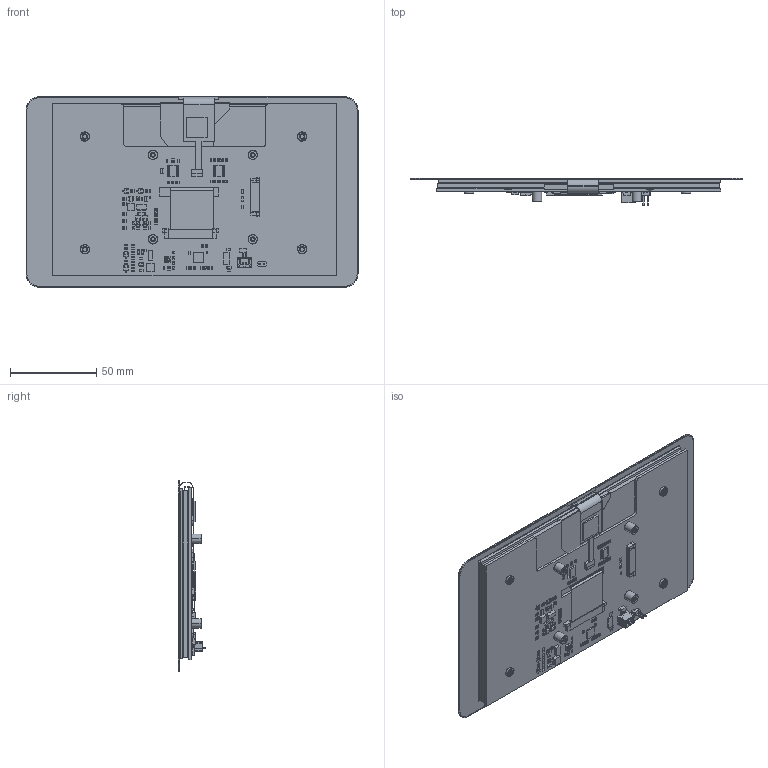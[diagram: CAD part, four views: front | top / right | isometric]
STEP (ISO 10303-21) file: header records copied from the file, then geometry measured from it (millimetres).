
FILE_DESCRIPTION((''),'2;1');
FILE_NAME('7INCH-DSI-LCD_B_ASM','2025-06-24T17:47:50',('xiaojisheng'),(''),'CREO PARAMETRIC BY PTC INC, 2021063','CREO PARAMETRIC BY PTC INC, 2021063','');
FILE_SCHEMA(('CONFIG_CONTROL_DESIGN','SHAPE_APPEARANCE_LAYERS_GROUPS'));
Length unit declared in the file: millimetre
Products named in the file (234): 7INCH-800X480-TP_3; 7INCH-800X480-LCD_2; 7INCH-800X480-LCD_TP_ASM_1_ASM; BOARD_1; EXTRUDED-4984_1; 910776464_ASM_1_ASM; EXTRUDED-5356_1; 910776336_ASM_1_ASM; R62_ASM_1_ASM; R61_ASM_1_ASM; EXTRUDED-5810_1; 910776208_ASM_1_ASM; EXTRUDED-6182_1; 910775952_ASM_1_ASM; R60_ASM_1_ASM; C41_ASM_1_ASM; C40_ASM_1_ASM; R44_ASM_1_ASM; C39_ASM_1_ASM; EXTRUDED-6766_1; 928324896_ASM_1_ASM; TVS2_ASM_1_ASM; TVS1_ASM_1_ASM; R59_ASM_1_ASM; EXTRUDED-7247_1; 910776976_ASM_1_ASM; CYLINDER_1; 836467480_ASM_1_ASM; EXTRUDED-7765_1; 781375376_ASM_1_ASM; EXTRUDED-8449_1; 781375504_ASM_1_ASM; R58_ASM_1_ASM; R57_ASM_1_ASM; R56_ASM_1_ASM; R55_ASM_1_ASM; R54_ASM_1_ASM; R53_ASM_1_ASM; EXTRUDED-9386_1; 928325408_ASM_1_ASM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
Assembly tree (620 placements, depth 6):
  7INCH-DSI-LCD_B_ASM
    7INCH-800X480-LCD_TP_ASM_1_ASM
      7INCH-800X480-TP_3
      7INCH-800X480-LCD_2
    7INCH_DSI_LCD-PCBA_ASM_ASM
      PCB_ASM_5_ASM
        BOARD_1
        R62_ASM_1_ASM
          910776464_ASM_1_ASM
            EXTRUDED-4984_1
          910776336_ASM_1_ASM  x2
            EXTRUDED-5356_1
        R61_ASM_1_ASM
          910776464_ASM_1_ASM
            EXTRUDED-4984_1
          910776336_ASM_1_ASM  x2
            EXTRUDED-5356_1
        R60_ASM_1_ASM
          910776208_ASM_1_ASM
            EXTRUDED-5810_1
          910775952_ASM_1_ASM  x2
            EXTRUDED-6182_1
        C41_ASM_1_ASM
          910776464_ASM_1_ASM
            EXTRUDED-4984_1
          910776336_ASM_1_ASM  x2
            EXTRUDED-5356_1
        C40_ASM_1_ASM
          910776208_ASM_1_ASM
            EXTRUDED-5810_1
          910775952_ASM_1_ASM  x2
            EXTRUDED-6182_1
        R44_ASM_1_ASM
          910776464_ASM_1_ASM
            EXTRUDED-4984_1
          910776336_ASM_1_ASM  x2
            EXTRUDED-5356_1
        C39_ASM_1_ASM
          910776336_ASM_1_ASM  x2
            EXTRUDED-5356_1
          910776464_ASM_1_ASM
            EXTRUDED-4984_1
        TVS2_ASM_1_ASM
          928324896_ASM_1_ASM
            EXTRUDED-6766_1
        TVS1_ASM_1_ASM
          928324896_ASM_1_ASM
            EXTRUDED-6766_1
        R59_ASM_1_ASM
          910776464_ASM_1_ASM
            EXTRUDED-4984_1
          910776336_ASM_1_ASM  x2
            EXTRUDED-5356_1
        R58_ASM_1_ASM
          910776976_ASM_1_ASM
            EXTRUDED-7247_1
          836467480_ASM_1_ASM
            CYLINDER_1
          781375376_ASM_1_ASM
            EXTRUDED-7765_1
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Bounding box: 192.96 x 16.1 x 110.76 mm (x, y, z)
Volume: 102033.9 mm3; surface area: 155546.2 mm2
Topology: 443 solids, 444 shells, 3219 faces, 6830 edges, 4522 vertices
Faces by surface type: plane 2914, cylinder 193, cone 72, bspline 40
Entity records: 40060 total; most frequent: CARTESIAN_POINT 8693, DIRECTION 6096, ORIENTED_EDGE 3376, AXIS2_PLACEMENT_3D 2319, EDGE_CURVE 1688, PRESENTATION_STYLE_ASSIGNMENT 1621, STYLED_ITEM 1592, CURVE_STYLE 1462
